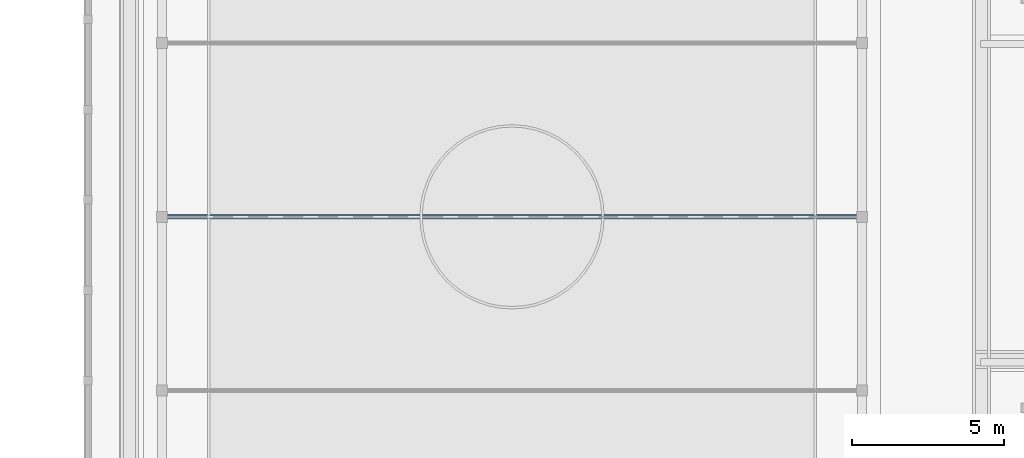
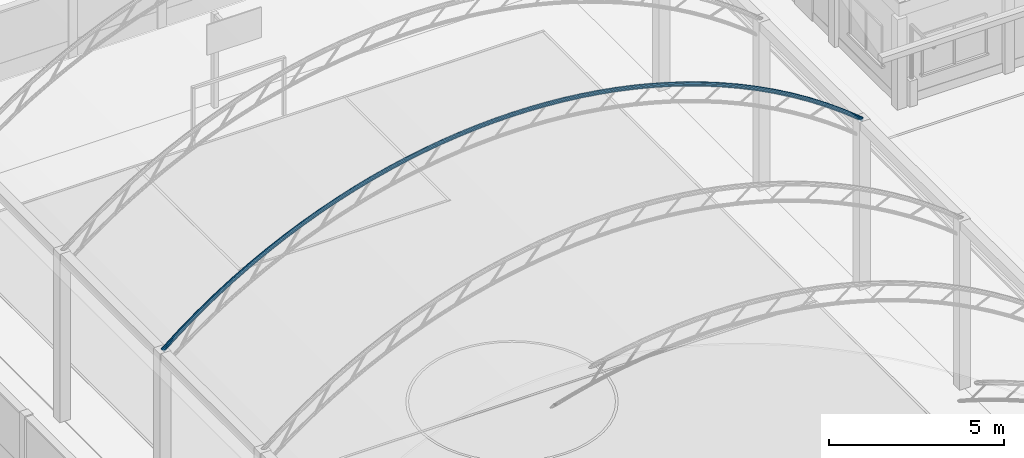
# One storey, part 25 of 177: 1 beam.
"""IFC4 building model written with IfcOpenShell, lengths in metres."""

from ifc_helpers import new_model, si_unit, origin, origin_with_axes, place, context, subcontext, project, spatial, triangles, element, save


model = new_model("IFC4")

# Units and contexts
model_context = context("Model", 3, precision=1e-05, world=origin_with_axes())
body_context = subcontext(model_context, "Body", "Model", "MODEL_VIEW")
ifc_project = project(units=[si_unit("LENGTHUNIT", "METRE"), si_unit("AREAUNIT", "SQUARE_METRE"), si_unit("VOLUMEUNIT", "CUBIC_METRE"), si_unit("PLANEANGLEUNIT", "RADIAN")], contexts=[model_context])

# Site, building, storey
site_placement = place(None, origin_with_axes())
site = spatial("IfcSite", under=ifc_project, at=site_placement, Name="Predio Los Mangos - Morales, San Martín", CompositionType="ELEMENT")
building_placement = place(site_placement, origin())
building = spatial("IfcBuilding", under=site, at=building_placement, Name="Hogar de Refugio Temporal", CompositionType="ELEMENT")
storey_placement = place(building_placement, origin())
storey = spatial("IfcBuildingStorey", under=building, at=storey_placement, Name="NIVEL 1 (NPT +0.00)", CompositionType="ELEMENT", Elevation=0.0)

# Beam
beam_placement = place(storey_placement, origin())
element("IfcBeam", 1, at=beam_placement, inside=storey, Name="arco", ObjectType="Viga", PredefinedType="BEAM", context=body_context, shape_type="Tessellation", body=[
    triangles([(3.4781, 109.8606, 5.9773), (3.462, 109.835, 5.9973), (3.4562, 109.8, 6.0046), (3.462, 109.765, 5.9973), (3.4781, 109.7394, 5.9773), (3.5, 109.73, 5.95), (3.5219, 109.7394, 5.9227), (3.538, 109.765, 5.9027), (3.5438, 109.8, 5.8954), (3.538, 109.835, 5.9027), (3.5219, 109.8606, 5.9227), (3.5, 109.87, 5.95), (4.0561, 109.8606, 6.4418), (4.0405, 109.835, 6.4621), (4.0348, 109.8, 6.4695), (4.0405, 109.765, 6.4621), (4.0561, 109.7394, 6.4418), (4.0775, 109.73, 6.4141), (4.0989, 109.7394, 6.3864), (4.1145, 109.765, 6.3661), (4.1202, 109.8, 6.3586), (4.1145, 109.835, 6.3661), (4.0989, 109.8606, 6.3864), (4.0775, 109.87, 6.4141), (4.6348, 109.8606, 6.8694), (4.6199, 109.835, 6.8903), (4.6145, 109.8, 6.8979), (4.6199, 109.765, 6.8903), (4.6348, 109.7394, 6.8694), (4.655, 109.73, 6.8408), (4.6752, 109.7394, 6.8123), (4.6901, 109.765, 6.7914), (4.6955, 109.8, 6.7837), (4.6901, 109.835, 6.7914), (4.6752, 109.8606, 6.8123), (4.655, 109.87, 6.8408), (5.2134, 109.8606, 7.2627), (5.1994, 109.835, 7.2841), (5.1943, 109.8, 7.292), (5.1994, 109.765, 7.2841), (5.2134, 109.7394, 7.2627), (5.2325, 109.73, 7.2333), (5.2516, 109.7394, 7.204), (5.2656, 109.765, 7.1826), (5.2707, 109.8, 7.1747), (5.2656, 109.835, 7.1826), (5.2516, 109.8606, 7.204), (5.2325, 109.87, 7.2333), (5.792, 109.8606, 7.6243), (5.7788, 109.835, 7.6463), (5.774, 109.8, 7.6543), (5.7788, 109.765, 7.6463), (5.792, 109.7394, 7.6243), (5.81, 109.73, 7.5943), (5.828, 109.7394, 7.5643), (5.8412, 109.765, 7.5423), (5.846, 109.8, 7.5343), (5.8412, 109.835, 7.5423), (5.828, 109.8606, 7.5643), (5.81, 109.87, 7.5943), (6.3706, 109.8606, 7.9565), (6.3583, 109.835, 7.979), (6.3538, 109.8, 7.9872), (6.3583, 109.765, 7.979), (6.3706, 109.7394, 7.9565), (6.3875, 109.73, 7.9259), (6.4044, 109.7394, 7.8952), (6.4167, 109.765, 7.8727), (6.4212, 109.8, 7.8645), (6.4167, 109.835, 7.8727), (6.4044, 109.8606, 7.8952), (6.3875, 109.87, 7.9259), (6.9493, 109.8606, 8.2611), (6.9377, 109.835, 8.284), (6.9335, 109.8, 8.2923), (6.9377, 109.765, 8.284), (6.9493, 109.7394, 8.2611), (6.965, 109.73, 8.2298), (6.9807, 109.7394, 8.1986), (6.9923, 109.765, 8.1757), (6.9965, 109.8, 8.1673), (6.9923, 109.835, 8.1757), (6.9807, 109.8606, 8.1986), (6.965, 109.87, 8.2298), (7.5279, 109.8606, 8.5395), (7.5172, 109.835, 8.5628), (7.5133, 109.8, 8.5713), (7.5172, 109.765, 8.5628), (7.5279, 109.7394, 8.5395), (7.5425, 109.73, 8.5077), (7.5571, 109.7394, 8.4759), (7.5678, 109.765, 8.4527), (7.5717, 109.8, 8.4441), (7.5678, 109.835, 8.4527), (7.5571, 109.8606, 8.4759), (7.5425, 109.87, 8.5077), (8.1065, 109.8606, 8.7932), (8.0966, 109.835, 8.8169), (8.093, 109.8, 8.8255), (8.0966, 109.765, 8.8169), (8.1065, 109.7394, 8.7932), (8.12, 109.73, 8.7609), (8.1335, 109.7394, 8.7286), (8.1434, 109.765, 8.705), (8.147, 109.8, 8.6963), (8.1434, 109.835, 8.705), (8.1335, 109.8606, 8.7286), (8.12, 109.87, 8.7609), (8.6851, 109.8606, 9.0232), (8.6761, 109.835, 9.0472), (8.6728, 109.8, 9.056), (8.6761, 109.765, 9.0472), (8.6851, 109.7394, 9.0232), (8.6975, 109.73, 8.9905), (8.7099, 109.7394, 8.9578), (8.7189, 109.765, 8.9338), (8.7222, 109.8, 8.925), (8.7189, 109.835, 8.9338), (8.7099, 109.8606, 8.9578), (8.6975, 109.87, 8.9905), (9.2638, 109.8606, 9.2305), (9.2555, 109.835, 9.2548), (9.2525, 109.8, 9.2637), (9.2555, 109.765, 9.2548), (9.2638, 109.7394, 9.2305), (9.275, 109.73, 9.1974), (9.2862, 109.7394, 9.1642), (9.2945, 109.765, 9.14), (9.2975, 109.8, 9.1311), (9.2945, 109.835, 9.14), (9.2862, 109.8606, 9.1642), (9.275, 109.87, 9.1974), (9.8424, 109.8606, 9.416), (9.835, 109.835, 9.4405), (9.8323, 109.8, 9.4495), (9.835, 109.765, 9.4405), (9.8424, 109.7394, 9.416), (9.8525, 109.73, 9.3824), (9.8626, 109.7394, 9.3489), (9.87, 109.765, 9.3244), (9.8727, 109.8, 9.3154), (9.87, 109.835, 9.3244), (9.8626, 109.8606, 9.3489), (9.8525, 109.87, 9.3824), (10.421, 109.8606, 9.5802), (10.4144, 109.835, 9.6049), (10.412, 109.8, 9.614), (10.4144, 109.765, 9.6049), (10.421, 109.7394, 9.5802), (10.43, 109.73, 9.5463), (10.439, 109.7394, 9.5125), (10.4456, 109.765, 9.4878), (10.448, 109.8, 9.4787), (10.4456, 109.835, 9.4878), (10.439, 109.8606, 9.5125), (10.43, 109.87, 9.5463), (10.9996, 109.8606, 9.7238), (10.9939, 109.835, 9.7488), (10.9918, 109.8, 9.7579), (10.9939, 109.765, 9.7488), (10.9996, 109.7394, 9.7238), (11.0075, 109.73, 9.6897), (11.0154, 109.7394, 9.6556), (11.0211, 109.765, 9.6306), (11.0232, 109.8, 9.6215), (11.0211, 109.835, 9.6306), (11.0154, 109.8606, 9.6556), (11.0075, 109.87, 9.6897), (11.5783, 109.8606, 9.8473), (11.5733, 109.835, 9.8725), (11.5715, 109.8, 9.8817), (11.5733, 109.765, 9.8725), (11.5783, 109.7394, 9.8473), (11.585, 109.73, 9.813), (11.5917, 109.7394, 9.7786), (11.5967, 109.765, 9.7535), (11.5985, 109.8, 9.7443), (11.5967, 109.835, 9.7535), (11.5917, 109.8606, 9.7786), (11.585, 109.87, 9.813), (12.1569, 109.8606, 9.9512), (12.1528, 109.835, 9.9765), (12.1513, 109.8, 9.9857), (12.1528, 109.765, 9.9765), (12.1569, 109.7394, 9.9512), (12.1625, 109.73, 9.9166), (12.1681, 109.7394, 9.8821), (12.1722, 109.765, 9.8568), (12.1737, 109.8, 9.8476), (12.1722, 109.835, 9.8568), (12.1681, 109.8606, 9.8821), (12.1625, 109.87, 9.9166), (12.7355, 109.8606, 10.0357), (12.7322, 109.835, 10.0611), (12.731, 109.8, 10.0704), (12.7322, 109.765, 10.0611), (12.7355, 109.7394, 10.0357), (12.74, 109.73, 10.001), (12.7445, 109.7394, 9.9663), (12.7478, 109.765, 9.9409), (12.749, 109.8, 9.9316), (12.7478, 109.835, 9.9409), (12.7445, 109.8606, 9.9663), (12.74, 109.87, 10.001), (13.3141, 109.8606, 10.1012), (13.3117, 109.835, 10.1267), (13.3108, 109.8, 10.136), (13.3117, 109.765, 10.1267), (13.3141, 109.7394, 10.1012), (13.3175, 109.73, 10.0663), (13.3209, 109.7394, 10.0315), (13.3233, 109.765, 10.006), (13.3242, 109.8, 9.9967), (13.3233, 109.835, 10.006), (13.3209, 109.8606, 10.0315), (13.3175, 109.87, 10.0663), (13.8928, 109.8606, 10.1478), (13.8911, 109.835, 10.1734), (13.8905, 109.8, 10.1827), (13.8911, 109.765, 10.1734), (13.8928, 109.7394, 10.1478), (13.895, 109.73, 10.1129), (13.8972, 109.7394, 10.0779), (13.8989, 109.765, 10.0524), (13.8995, 109.8, 10.043), (13.8989, 109.835, 10.0524), (13.8972, 109.8606, 10.0779), (13.895, 109.87, 10.1129), (14.4714, 109.8606, 10.1757), (14.4706, 109.835, 10.2013), (14.4703, 109.8, 10.2107), (14.4706, 109.765, 10.2013), (14.4714, 109.7394, 10.1757), (14.4725, 109.73, 10.1407), (14.4736, 109.7394, 10.1057), (14.4744, 109.765, 10.0801), (14.4747, 109.8, 10.0708), (14.4744, 109.835, 10.0801), (14.4736, 109.8606, 10.1057), (14.4725, 109.87, 10.1407), (15.05, 109.8606, 10.185), (15.05, 109.835, 10.2106), (15.05, 109.8, 10.22), (15.05, 109.765, 10.2106), (15.05, 109.7394, 10.185), (15.05, 109.73, 10.15), (15.05, 109.7394, 10.115), (15.05, 109.765, 10.0894), (15.05, 109.8, 10.08), (15.05, 109.835, 10.0894), (15.05, 109.8606, 10.115), (15.05, 109.87, 10.15), (15.6286, 109.8606, 10.1757), (15.6294, 109.835, 10.2013), (15.6297, 109.8, 10.2107), (15.6294, 109.765, 10.2013), (15.6286, 109.7394, 10.1757), (15.6275, 109.73, 10.1407), (15.6264, 109.7394, 10.1057), (15.6256, 109.765, 10.0801), (15.6253, 109.8, 10.0708), (15.6256, 109.835, 10.0801), (15.6264, 109.8606, 10.1057), (15.6275, 109.87, 10.1407), (16.2072, 109.8606, 10.1478), (16.2089, 109.835, 10.1734), (16.2095, 109.8, 10.1827), (16.2089, 109.765, 10.1734), (16.2072, 109.7394, 10.1478), (16.205, 109.73, 10.1129), (16.2028, 109.7394, 10.0779), (16.2011, 109.765, 10.0524), (16.2005, 109.8, 10.043), (16.2011, 109.835, 10.0524), (16.2028, 109.8606, 10.0779), (16.205, 109.87, 10.1129), (16.7859, 109.8606, 10.1012), (16.7883, 109.835, 10.1267), (16.7892, 109.8, 10.136), (16.7883, 109.765, 10.1267), (16.7859, 109.7394, 10.1012), (16.7825, 109.73, 10.0663), (16.7791, 109.7394, 10.0315), (16.7767, 109.765, 10.006), (16.7758, 109.8, 9.9967), (16.7767, 109.835, 10.006), (16.7791, 109.8606, 10.0315), (16.7825, 109.87, 10.0663), (17.3645, 109.8606, 10.0357), (17.3678, 109.835, 10.0611), (17.369, 109.8, 10.0704), (17.3678, 109.765, 10.0611), (17.3645, 109.7394, 10.0357), (17.36, 109.73, 10.001), (17.3555, 109.7394, 9.9663), (17.3522, 109.765, 9.9409), (17.351, 109.8, 9.9316), (17.3522, 109.835, 9.9409), (17.3555, 109.8606, 9.9663), (17.36, 109.87, 10.001), (17.9431, 109.8606, 9.9512), (17.9472, 109.835, 9.9765), (17.9487, 109.8, 9.9857), (17.9472, 109.765, 9.9765), (17.9431, 109.7394, 9.9512), (17.9375, 109.73, 9.9166), (17.9319, 109.7394, 9.8821), (17.9278, 109.765, 9.8568), (17.9263, 109.8, 9.8476), (17.9278, 109.835, 9.8568), (17.9319, 109.8606, 9.8821), (17.9375, 109.87, 9.9166), (18.5217, 109.8606, 9.8473), (18.5267, 109.835, 9.8725), (18.5285, 109.8, 9.8817), (18.5267, 109.765, 9.8725), (18.5217, 109.7394, 9.8473), (18.515, 109.73, 9.813), (18.5083, 109.7394, 9.7786), (18.5033, 109.765, 9.7535), (18.5015, 109.8, 9.7443), (18.5033, 109.835, 9.7535), (18.5083, 109.8606, 9.7786), (18.515, 109.87, 9.813), (19.1004, 109.8606, 9.7238), (19.1061, 109.835, 9.7488), (19.1082, 109.8, 9.7579), (19.1061, 109.765, 9.7488), (19.1004, 109.7394, 9.7238), (19.0925, 109.73, 9.6897), (19.0846, 109.7394, 9.6556), (19.0789, 109.765, 9.6306), (19.0768, 109.8, 9.6215), (19.0789, 109.835, 9.6306), (19.0846, 109.8606, 9.6556), (19.0925, 109.87, 9.6897), (19.679, 109.8606, 9.5802), (19.6856, 109.835, 9.6049), (19.688, 109.8, 9.614), (19.6856, 109.765, 9.6049), (19.679, 109.7394, 9.5802), (19.67, 109.73, 9.5463), (19.661, 109.7394, 9.5125), (19.6544, 109.765, 9.4878), (19.652, 109.8, 9.4787), (19.6544, 109.835, 9.4878), (19.661, 109.8606, 9.5125), (19.67, 109.87, 9.5463), (20.2576, 109.8606, 9.416), (20.265, 109.835, 9.4405), (20.2677, 109.8, 9.4495), (20.265, 109.765, 9.4405), (20.2576, 109.7394, 9.416), (20.2475, 109.73, 9.3824), (20.2374, 109.7394, 9.3489), (20.23, 109.765, 9.3244), (20.2273, 109.8, 9.3154), (20.23, 109.835, 9.3244), (20.2374, 109.8606, 9.3489), (20.2475, 109.87, 9.3824), (20.8362, 109.8606, 9.2305), (20.8445, 109.835, 9.2548), (20.8475, 109.8, 9.2637), (20.8445, 109.765, 9.2548), (20.8362, 109.7394, 9.2305), (20.825, 109.73, 9.1974), (20.8138, 109.7394, 9.1642), (20.8055, 109.765, 9.14), (20.8025, 109.8, 9.1311), (20.8055, 109.835, 9.14), (20.8138, 109.8606, 9.1642), (20.825, 109.87, 9.1974), (21.4149, 109.8606, 9.0232), (21.4239, 109.835, 9.0472), (21.4272, 109.8, 9.056), (21.4239, 109.765, 9.0472), (21.4149, 109.7394, 9.0232), (21.4025, 109.73, 8.9905), (21.3901, 109.7394, 8.9578), (21.3811, 109.765, 8.9338), (21.3778, 109.8, 8.925), (21.3811, 109.835, 8.9338), (21.3901, 109.8606, 8.9578), (21.4025, 109.87, 8.9905), (21.9935, 109.8606, 8.7932), (22.0034, 109.835, 8.8169), (22.007, 109.8, 8.8255), (22.0034, 109.765, 8.8169), (21.9935, 109.7394, 8.7932), (21.98, 109.73, 8.7609), (21.9665, 109.7394, 8.7286), (21.9566, 109.765, 8.705), (21.953, 109.8, 8.6963), (21.9566, 109.835, 8.705), (21.9665, 109.8606, 8.7286), (21.98, 109.87, 8.7609), (22.5721, 109.8606, 8.5395), (22.5828, 109.835, 8.5628), (22.5867, 109.8, 8.5713), (22.5828, 109.765, 8.5628), (22.5721, 109.7394, 8.5395), (22.5575, 109.73, 8.5077), (22.5429, 109.7394, 8.4759), (22.5322, 109.765, 8.4527), (22.5283, 109.8, 8.4441), (22.5322, 109.835, 8.4527), (22.5429, 109.8606, 8.4759), (22.5575, 109.87, 8.5077), (23.1507, 109.8606, 8.2611), (23.1623, 109.835, 8.284), (23.1665, 109.8, 8.2923), (23.1623, 109.765, 8.284), (23.1507, 109.7394, 8.2611), (23.135, 109.73, 8.2298), (23.1193, 109.7394, 8.1986), (23.1077, 109.765, 8.1757), (23.1035, 109.8, 8.1673), (23.1077, 109.835, 8.1757), (23.1193, 109.8606, 8.1986), (23.135, 109.87, 8.2298), (23.7294, 109.8606, 7.9565), (23.7417, 109.835, 7.979), (23.7462, 109.8, 7.9872), (23.7417, 109.765, 7.979), (23.7294, 109.7394, 7.9565), (23.7125, 109.73, 7.9259), (23.6956, 109.7394, 7.8952), (23.6833, 109.765, 7.8727), (23.6788, 109.8, 7.8645), (23.6833, 109.835, 7.8727), (23.6956, 109.8606, 7.8952), (23.7125, 109.87, 7.9259), (24.308, 109.8606, 7.6243), (24.3212, 109.835, 7.6463), (24.326, 109.8, 7.6543), (24.3212, 109.765, 7.6463), (24.308, 109.7394, 7.6243), (24.29, 109.73, 7.5943), (24.272, 109.7394, 7.5643), (24.2588, 109.765, 7.5423), (24.254, 109.8, 7.5343), (24.2588, 109.835, 7.5423), (24.272, 109.8606, 7.5643), (24.29, 109.87, 7.5943), (24.8866, 109.8606, 7.2627), (24.9006, 109.835, 7.2841), (24.9057, 109.8, 7.292), (24.9006, 109.765, 7.2841), (24.8866, 109.7394, 7.2627), (24.8675, 109.73, 7.2333), (24.8484, 109.7394, 7.204), (24.8344, 109.765, 7.1826), (24.8293, 109.8, 7.1747), (24.8344, 109.835, 7.1826), (24.8484, 109.8606, 7.204), (24.8675, 109.87, 7.2333), (25.4652, 109.8606, 6.8694), (25.4801, 109.835, 6.8903), (25.4855, 109.8, 6.8979), (25.4801, 109.765, 6.8903), (25.4652, 109.7394, 6.8694), (25.445, 109.73, 6.8408), (25.4248, 109.7394, 6.8123), (25.4099, 109.765, 6.7914), (25.4045, 109.8, 6.7837), (25.4099, 109.835, 6.7914), (25.4248, 109.8606, 6.8123), (25.445, 109.87, 6.8408), (26.0439, 109.8606, 6.4418), (26.0595, 109.835, 6.4621), (26.0652, 109.8, 6.4695), (26.0595, 109.765, 6.4621), (26.0439, 109.7394, 6.4418), (26.0225, 109.73, 6.4141), (26.0011, 109.7394, 6.3864), (25.9855, 109.765, 6.3661), (25.9798, 109.8, 6.3586), (25.9855, 109.835, 6.3661), (26.0011, 109.8606, 6.3864), (26.0225, 109.87, 6.4141), (26.6219, 109.8606, 5.9773), (26.638, 109.835, 5.9973), (26.6438, 109.8, 6.0046), (26.638, 109.765, 5.9973), (26.6219, 109.7394, 5.9773), (26.6, 109.73, 5.95), (26.5781, 109.7394, 5.9227), (26.562, 109.765, 5.9027), (26.5562, 109.8, 5.8954), (26.562, 109.835, 5.9027), (26.5781, 109.8606, 5.9227), (26.6, 109.87, 5.95)], [[1, 13, 24], [1, 24, 12], [2, 14, 13], [2, 13, 1], [3, 15, 14], [3, 14, 2], [4, 16, 15], [4, 15, 3], [5, 17, 16], [5, 16, 4], [6, 18, 17], [6, 17, 5], [7, 19, 18], [7, 18, 6], [8, 20, 19], [8, 19, 7], [9, 21, 20], [9, 20, 8], [10, 22, 21], [10, 21, 9], [11, 23, 22], [11, 22, 10], [12, 24, 23], [12, 23, 11], [13, 25, 36], [13, 36, 24], [14, 26, 25], [14, 25, 13], [15, 27, 26], [15, 26, 14], [16, 28, 27], [16, 27, 15], [17, 29, 28], [17, 28, 16], [18, 30, 29], [18, 29, 17], [19, 31, 30], [19, 30, 18], [20, 32, 31], [20, 31, 19], [21, 33, 32], [21, 32, 20], [22, 34, 33], [22, 33, 21], [23, 35, 34], [23, 34, 22], [24, 36, 35], [24, 35, 23], [25, 37, 48], [25, 48, 36], [26, 38, 37], [26, 37, 25], [27, 39, 38], [27, 38, 26], [28, 40, 39], [28, 39, 27], [29, 41, 40], [29, 40, 28], [30, 42, 41], [30, 41, 29], [31, 43, 42], [31, 42, 30], [32, 44, 43], [32, 43, 31], [33, 45, 44], [33, 44, 32], [34, 46, 45], [34, 45, 33], [35, 47, 46], [35, 46, 34], [36, 48, 47], [36, 47, 35], [37, 49, 60], [37, 60, 48], [38, 50, 49], [38, 49, 37], [39, 51, 50], [39, 50, 38], [40, 52, 51], [40, 51, 39], [41, 53, 52], [41, 52, 40], [42, 54, 53], [42, 53, 41], [43, 55, 54], [43, 54, 42], [44, 56, 55], [44, 55, 43], [45, 57, 56], [45, 56, 44], [46, 58, 57], [46, 57, 45], [47, 59, 58], [47, 58, 46], [48, 60, 59], [48, 59, 47], [49, 61, 72], [49, 72, 60], [50, 62, 61], [50, 61, 49], [51, 63, 62], [51, 62, 50], [52, 64, 63], [52, 63, 51], [53, 65, 64], [53, 64, 52], [54, 66, 65], [54, 65, 53], [55, 67, 66], [55, 66, 54], [56, 68, 67], [56, 67, 55], [57, 69, 68], [57, 68, 56], [58, 70, 69], [58, 69, 57], [59, 71, 70], [59, 70, 58], [60, 72, 71], [60, 71, 59], [61, 73, 84], [61, 84, 72], [62, 74, 73], [62, 73, 61], [63, 75, 74], [63, 74, 62], [64, 76, 75], [64, 75, 63], [65, 77, 76], [65, 76, 64], [66, 78, 77], [66, 77, 65], [67, 79, 78], [67, 78, 66], [68, 80, 79], [68, 79, 67], [69, 81, 80], [69, 80, 68], [70, 82, 81], [70, 81, 69], [71, 83, 82], [71, 82, 70], [72, 84, 83], [72, 83, 71], [73, 85, 96], [73, 96, 84], [74, 86, 85], [74, 85, 73], [75, 87, 86], [75, 86, 74], [76, 88, 87], [76, 87, 75], [77, 89, 88], [77, 88, 76], [78, 90, 89], [78, 89, 77], [79, 91, 90], [79, 90, 78], [80, 92, 91], [80, 91, 79], [81, 93, 92], [81, 92, 80], [82, 94, 93], [82, 93, 81], [83, 95, 94], [83, 94, 82], [84, 96, 95], [84, 95, 83], [85, 97, 108], [85, 108, 96], [86, 98, 97], [86, 97, 85], [87, 99, 98], [87, 98, 86], [88, 100, 99], [88, 99, 87], [89, 101, 100], [89, 100, 88], [90, 102, 101], [90, 101, 89], [91, 103, 102], [91, 102, 90], [92, 104, 103], [92, 103, 91], [93, 105, 104], [93, 104, 92], [94, 106, 105], [94, 105, 93], [95, 107, 106], [95, 106, 94], [96, 108, 107], [96, 107, 95], [97, 109, 120], [97, 120, 108], [98, 110, 109], [98, 109, 97], [99, 111, 110], [99, 110, 98], [100, 112, 111], [100, 111, 99], [101, 113, 112], [101, 112, 100], [102, 114, 113], [102, 113, 101], [103, 115, 114], [103, 114, 102], [104, 116, 115], [104, 115, 103], [105, 117, 116], [105, 116, 104], [106, 118, 117], [106, 117, 105], [107, 119, 118], [107, 118, 106], [108, 120, 119], [108, 119, 107], [109, 121, 132], [109, 132, 120], [110, 122, 121], [110, 121, 109], [111, 123, 122], [111, 122, 110], [112, 124, 123], [112, 123, 111], [113, 125, 124], [113, 124, 112], [114, 126, 125], [114, 125, 113], [115, 127, 126], [115, 126, 114], [116, 128, 127], [116, 127, 115], [117, 129, 128], [117, 128, 116], [118, 130, 129], [118, 129, 117], [119, 131, 130], [119, 130, 118], [120, 132, 131], [120, 131, 119], [121, 133, 144], [121, 144, 132], [122, 134, 133], [122, 133, 121], [123, 135, 134], [123, 134, 122], [124, 136, 135], [124, 135, 123], [125, 137, 136], [125, 136, 124], [126, 138, 137], [126, 137, 125], [127, 139, 138], [127, 138, 126], [128, 140, 139], [128, 139, 127], [129, 141, 140], [129, 140, 128], [130, 142, 141], [130, 141, 129], [131, 143, 142], [131, 142, 130], [132, 144, 143], [132, 143, 131], [133, 145, 156], [133, 156, 144], [134, 146, 145], [134, 145, 133], [135, 147, 146], [135, 146, 134], [136, 148, 147], [136, 147, 135], [137, 149, 148], [137, 148, 136], [138, 150, 149], [138, 149, 137], [139, 151, 150], [139, 150, 138], [140, 152, 151], [140, 151, 139], [141, 153, 152], [141, 152, 140], [142, 154, 153], [142, 153, 141], [143, 155, 154], [143, 154, 142], [144, 156, 155], [144, 155, 143], [145, 157, 168], [145, 168, 156], [146, 158, 157], [146, 157, 145], [147, 159, 158], [147, 158, 146], [148, 160, 159], [148, 159, 147], [149, 161, 160], [149, 160, 148], [150, 162, 161], [150, 161, 149], [151, 163, 162], [151, 162, 150], [152, 164, 163], [152, 163, 151], [153, 165, 164], [153, 164, 152], [154, 166, 165], [154, 165, 153], [155, 167, 166], [155, 166, 154], [156, 168, 167], [156, 167, 155], [157, 169, 180], [157, 180, 168], [158, 170, 169], [158, 169, 157], [159, 171, 170], [159, 170, 158], [160, 172, 171], [160, 171, 159], [161, 173, 172], [161, 172, 160], [162, 174, 173], [162, 173, 161], [163, 175, 174], [163, 174, 162], [164, 176, 175], [164, 175, 163], [165, 177, 176], [165, 176, 164], [166, 178, 177], [166, 177, 165], [167, 179, 178], [167, 178, 166], [168, 180, 179], [168, 179, 167], [169, 181, 192], [169, 192, 180], [170, 182, 181], [170, 181, 169], [171, 183, 182], [171, 182, 170], [172, 184, 183], [172, 183, 171], [173, 185, 184], [173, 184, 172], [174, 186, 185], [174, 185, 173], [175, 187, 186], [175, 186, 174], [176, 188, 187], [176, 187, 175], [177, 189, 188], [177, 188, 176], [178, 190, 189], [178, 189, 177], [179, 191, 190], [179, 190, 178], [180, 192, 191], [180, 191, 179], [181, 193, 204], [181, 204, 192], [182, 194, 193], [182, 193, 181], [183, 195, 194], [183, 194, 182], [184, 196, 195], [184, 195, 183], [185, 197, 196], [185, 196, 184], [186, 198, 197], [186, 197, 185], [187, 199, 198], [187, 198, 186], [188, 200, 199], [188, 199, 187], [189, 201, 200], [189, 200, 188], [190, 202, 201], [190, 201, 189], [191, 203, 202], [191, 202, 190], [192, 204, 203], [192, 203, 191], [193, 205, 216], [193, 216, 204], [194, 206, 205], [194, 205, 193], [195, 207, 206], [195, 206, 194], [196, 208, 207], [196, 207, 195], [197, 209, 208], [197, 208, 196], [198, 210, 209], [198, 209, 197], [199, 211, 210], [199, 210, 198], [200, 212, 211], [200, 211, 199], [201, 213, 212], [201, 212, 200], [202, 214, 213], [202, 213, 201], [203, 215, 214], [203, 214, 202], [204, 216, 215], [204, 215, 203], [205, 217, 228], [205, 228, 216], [206, 218, 217], [206, 217, 205], [207, 219, 218], [207, 218, 206], [208, 220, 219], [208, 219, 207], [209, 221, 220], [209, 220, 208], [210, 222, 221], [210, 221, 209], [211, 223, 222], [211, 222, 210], [212, 224, 223], [212, 223, 211], [213, 225, 224], [213, 224, 212], [214, 226, 225], [214, 225, 213], [215, 227, 226], [215, 226, 214], [216, 228, 227], [216, 227, 215], [217, 229, 240], [217, 240, 228], [218, 230, 229], [218, 229, 217], [219, 231, 230], [219, 230, 218], [220, 232, 231], [220, 231, 219], [221, 233, 232], [221, 232, 220], [222, 234, 233], [222, 233, 221], [223, 235, 234], [223, 234, 222], [224, 236, 235], [224, 235, 223], [225, 237, 236], [225, 236, 224], [226, 238, 237], [226, 237, 225], [227, 239, 238], [227, 238, 226], [228, 240, 239], [228, 239, 227], [229, 241, 252], [229, 252, 240], [230, 242, 241], [230, 241, 229], [231, 243, 242], [231, 242, 230], [232, 244, 243], [232, 243, 231], [233, 245, 244], [233, 244, 232], [234, 246, 245], [234, 245, 233], [235, 247, 246], [235, 246, 234], [236, 248, 247], [236, 247, 235], [237, 249, 248], [237, 248, 236], [238, 250, 249], [238, 249, 237], [239, 251, 250], [239, 250, 238], [240, 252, 251], [240, 251, 239], [241, 253, 264], [241, 264, 252], [242, 254, 253], [242, 253, 241], [243, 255, 254], [243, 254, 242], [244, 256, 255], [244, 255, 243], [245, 257, 256], [245, 256, 244], [246, 258, 257], [246, 257, 245], [247, 259, 258], [247, 258, 246], [248, 260, 259], [248, 259, 247], [249, 261, 260], [249, 260, 248], [250, 262, 261], [250, 261, 249], [251, 263, 262], [251, 262, 250], [252, 264, 263], [252, 263, 251], [253, 265, 276], [253, 276, 264], [254, 266, 265], [254, 265, 253], [255, 267, 266], [255, 266, 254], [256, 268, 267], [256, 267, 255], [257, 269, 268], [257, 268, 256], [258, 270, 269], [258, 269, 257], [259, 271, 270], [259, 270, 258], [260, 272, 271], [260, 271, 259], [261, 273, 272], [261, 272, 260], [262, 274, 273], [262, 273, 261], [263, 275, 274], [263, 274, 262], [264, 276, 275], [264, 275, 263], [265, 277, 288], [265, 288, 276], [266, 278, 277], [266, 277, 265], [267, 279, 278], [267, 278, 266], [268, 280, 279], [268, 279, 267], [269, 281, 280], [269, 280, 268], [270, 282, 281], [270, 281, 269], [271, 283, 282], [271, 282, 270], [272, 284, 283], [272, 283, 271], [273, 285, 284], [273, 284, 272], [274, 286, 285], [274, 285, 273], [275, 287, 286], [275, 286, 274], [276, 288, 287], [276, 287, 275], [277, 289, 300], [277, 300, 288], [278, 290, 289], [278, 289, 277], [279, 291, 290], [279, 290, 278], [280, 292, 291], [280, 291, 279], [281, 293, 292], [281, 292, 280], [282, 294, 293], [282, 293, 281], [283, 295, 294], [283, 294, 282], [284, 296, 295], [284, 295, 283], [285, 297, 296], [285, 296, 284], [286, 298, 297], [286, 297, 285], [287, 299, 298], [287, 298, 286], [288, 300, 299], [288, 299, 287], [289, 301, 312], [289, 312, 300], [290, 302, 301], [290, 301, 289], [291, 303, 302], [291, 302, 290], [292, 304, 303], [292, 303, 291], [293, 305, 304], [293, 304, 292], [294, 306, 305], [294, 305, 293], [295, 307, 306], [295, 306, 294], [296, 308, 307], [296, 307, 295], [297, 309, 308], [297, 308, 296], [298, 310, 309], [298, 309, 297], [299, 311, 310], [299, 310, 298], [300, 312, 311], [300, 311, 299], [301, 313, 324], [301, 324, 312], [302, 314, 313], [302, 313, 301], [303, 315, 314], [303, 314, 302], [304, 316, 315], [304, 315, 303], [305, 317, 316], [305, 316, 304], [306, 318, 317], [306, 317, 305], [307, 319, 318], [307, 318, 306], [308, 320, 319], [308, 319, 307], [309, 321, 320], [309, 320, 308], [310, 322, 321], [310, 321, 309], [311, 323, 322], [311, 322, 310], [312, 324, 323], [312, 323, 311], [313, 325, 336], [313, 336, 324], [314, 326, 325], [314, 325, 313], [315, 327, 326], [315, 326, 314], [316, 328, 327], [316, 327, 315], [317, 329, 328], [317, 328, 316], [318, 330, 329], [318, 329, 317], [319, 331, 330], [319, 330, 318], [320, 332, 331], [320, 331, 319], [321, 333, 332], [321, 332, 320], [322, 334, 333], [322, 333, 321], [323, 335, 334], [323, 334, 322], [324, 336, 335], [324, 335, 323], [325, 337, 348], [325, 348, 336], [326, 338, 337], [326, 337, 325], [327, 339, 338], [327, 338, 326], [328, 340, 339], [328, 339, 327], [329, 341, 340], [329, 340, 328], [330, 342, 341], [330, 341, 329], [331, 343, 342], [331, 342, 330], [332, 344, 343], [332, 343, 331], [333, 345, 344], [333, 344, 332], [334, 346, 345], [334, 345, 333], [335, 347, 346], [335, 346, 334], [336, 348, 347], [336, 347, 335], [337, 349, 360], [337, 360, 348], [338, 350, 349], [338, 349, 337], [339, 351, 350], [339, 350, 338], [340, 352, 351], [340, 351, 339], [341, 353, 352], [341, 352, 340], [342, 354, 353], [342, 353, 341], [343, 355, 354], [343, 354, 342], [344, 356, 355], [344, 355, 343], [345, 357, 356], [345, 356, 344], [346, 358, 357], [346, 357, 345], [347, 359, 358], [347, 358, 346], [348, 360, 359], [348, 359, 347], [349, 361, 372], [349, 372, 360], [350, 362, 361], [350, 361, 349], [351, 363, 362], [351, 362, 350], [352, 364, 363], [352, 363, 351], [353, 365, 364], [353, 364, 352], [354, 366, 365], [354, 365, 353], [355, 367, 366], [355, 366, 354], [356, 368, 367], [356, 367, 355], [357, 369, 368], [357, 368, 356], [358, 370, 369], [358, 369, 357], [359, 371, 370], [359, 370, 358], [360, 372, 371], [360, 371, 359], [361, 373, 384], [361, 384, 372], [362, 374, 373], [362, 373, 361], [363, 375, 374], [363, 374, 362], [364, 376, 375], [364, 375, 363], [365, 377, 376], [365, 376, 364], [366, 378, 377], [366, 377, 365], [367, 379, 378], [367, 378, 366], [368, 380, 379], [368, 379, 367], [369, 381, 380], [369, 380, 368], [370, 382, 381], [370, 381, 369], [371, 383, 382], [371, 382, 370], [372, 384, 383], [372, 383, 371], [373, 385, 396], [373, 396, 384], [374, 386, 385], [374, 385, 373], [375, 387, 386], [375, 386, 374], [376, 388, 387], [376, 387, 375], [377, 389, 388], [377, 388, 376], [378, 390, 389], [378, 389, 377], [379, 391, 390], [379, 390, 378], [380, 392, 391], [380, 391, 379], [381, 393, 392], [381, 392, 380], [382, 394, 393], [382, 393, 381], [383, 395, 394], [383, 394, 382], [384, 396, 395], [384, 395, 383], [385, 397, 408], [385, 408, 396], [386, 398, 397], [386, 397, 385], [387, 399, 398], [387, 398, 386], [388, 400, 399], [388, 399, 387], [389, 401, 400], [389, 400, 388], [390, 402, 401], [390, 401, 389], [391, 403, 402], [391, 402, 390], [392, 404, 403], [392, 403, 391], [393, 405, 404], [393, 404, 392], [394, 406, 405], [394, 405, 393], [395, 407, 406], [395, 406, 394], [396, 408, 407], [396, 407, 395], [397, 409, 420], [397, 420, 408], [398, 410, 409], [398, 409, 397], [399, 411, 410], [399, 410, 398], [400, 412, 411], [400, 411, 399], [401, 413, 412], [401, 412, 400], [402, 414, 413], [402, 413, 401], [403, 415, 414], [403, 414, 402], [404, 416, 415], [404, 415, 403], [405, 417, 416], [405, 416, 404], [406, 418, 417], [406, 417, 405], [407, 419, 418], [407, 418, 406], [408, 420, 419], [408, 419, 407], [409, 421, 432], [409, 432, 420], [410, 422, 421], [410, 421, 409], [411, 423, 422], [411, 422, 410], [412, 424, 423], [412, 423, 411], [413, 425, 424], [413, 424, 412], [414, 426, 425], [414, 425, 413], [415, 427, 426], [415, 426, 414], [416, 428, 427], [416, 427, 415], [417, 429, 428], [417, 428, 416], [418, 430, 429], [418, 429, 417], [419, 431, 430], [419, 430, 418], [420, 432, 431], [420, 431, 419], [421, 433, 444], [421, 444, 432], [422, 434, 433], [422, 433, 421], [423, 435, 434], [423, 434, 422], [424, 436, 435], [424, 435, 423], [425, 437, 436], [425, 436, 424], [426, 438, 437], [426, 437, 425], [427, 439, 438], [427, 438, 426], [428, 440, 439], [428, 439, 427], [429, 441, 440], [429, 440, 428], [430, 442, 441], [430, 441, 429], [431, 443, 442], [431, 442, 430], [432, 444, 443], [432, 443, 431], [433, 445, 456], [433, 456, 444], [434, 446, 445], [434, 445, 433], [435, 447, 446], [435, 446, 434], [436, 448, 447], [436, 447, 435], [437, 449, 448], [437, 448, 436], [438, 450, 449], [438, 449, 437], [439, 451, 450], [439, 450, 438], [440, 452, 451], [440, 451, 439], [441, 453, 452], [441, 452, 440], [442, 454, 453], [442, 453, 441], [443, 455, 454], [443, 454, 442], [444, 456, 455], [444, 455, 443], [445, 457, 468], [445, 468, 456], [446, 458, 457], [446, 457, 445], [447, 459, 458], [447, 458, 446], [448, 460, 459], [448, 459, 447], [449, 461, 460], [449, 460, 448], [450, 462, 461], [450, 461, 449], [451, 463, 462], [451, 462, 450], [452, 464, 463], [452, 463, 451], [453, 465, 464], [453, 464, 452], [454, 466, 465], [454, 465, 453], [455, 467, 466], [455, 466, 454], [456, 468, 467], [456, 467, 455], [457, 469, 480], [457, 480, 468], [458, 470, 469], [458, 469, 457], [459, 471, 470], [459, 470, 458], [460, 472, 471], [460, 471, 459], [461, 473, 472], [461, 472, 460], [462, 474, 473], [462, 473, 461], [463, 475, 474], [463, 474, 462], [464, 476, 475], [464, 475, 463], [465, 477, 476], [465, 476, 464], [466, 478, 477], [466, 477, 465], [467, 479, 478], [467, 478, 466], [468, 480, 479], [468, 479, 467], [469, 481, 492], [469, 492, 480], [470, 482, 481], [470, 481, 469], [471, 483, 482], [471, 482, 470], [472, 484, 483], [472, 483, 471], [473, 485, 484], [473, 484, 472], [474, 486, 485], [474, 485, 473], [475, 487, 486], [475, 486, 474], [476, 488, 487], [476, 487, 475], [477, 489, 488], [477, 488, 476], [478, 490, 489], [478, 489, 477], [479, 491, 490], [479, 490, 478], [480, 492, 491], [480, 491, 479]]),
])

save(model, "model.ifc")
